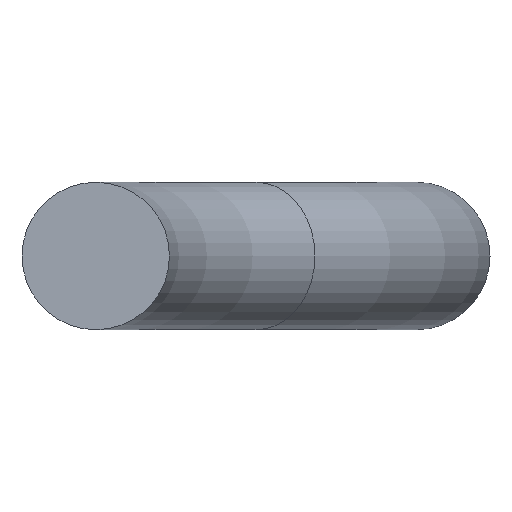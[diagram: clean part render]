
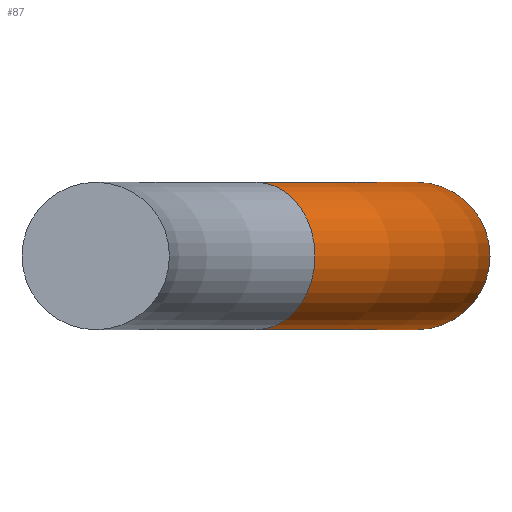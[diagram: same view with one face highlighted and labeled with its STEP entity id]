
A CAD part, front view. The second image highlights one B-rep face of the part: STEP entity #87.
In plain terms, the highlighted toroidal (fillet/blend) face has major radius 125 mm and minor radius 11.5 mm.
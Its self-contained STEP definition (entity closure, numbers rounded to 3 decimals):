
#17=TOROIDAL_SURFACE('',#110,125.,11.5);
#20=FACE_OUTER_BOUND('',#26,.T.);
#26=EDGE_LOOP('',(#67,#68,#69,#70,#71,#72));
#36=CIRCLE('',#108,11.5);
#37=CIRCLE('',#109,11.5);
#38=CIRCLE('',#111,113.5);
#39=CIRCLE('',#112,11.5);
#40=CIRCLE('',#113,11.5);
#45=VERTEX_POINT('',#159);
#46=VERTEX_POINT('',#161);
#47=VERTEX_POINT('',#165);
#48=VERTEX_POINT('',#167);
#53=EDGE_CURVE('',#45,#46,#36,.T.);
#54=EDGE_CURVE('',#46,#45,#37,.T.);
#55=EDGE_CURVE('',#46,#47,#38,.T.);
#56=EDGE_CURVE('',#47,#48,#39,.T.);
#57=EDGE_CURVE('',#48,#47,#40,.T.);
#67=ORIENTED_EDGE('',*,*,#53,.F.);
#68=ORIENTED_EDGE('',*,*,#54,.F.);
#69=ORIENTED_EDGE('',*,*,#55,.T.);
#70=ORIENTED_EDGE('',*,*,#56,.T.);
#71=ORIENTED_EDGE('',*,*,#57,.T.);
#72=ORIENTED_EDGE('',*,*,#55,.F.);
#87=ADVANCED_FACE('',(#20),#17,.T.);
#108=AXIS2_PLACEMENT_3D('',#162,#128,#129);
#109=AXIS2_PLACEMENT_3D('',#163,#130,#131);
#110=AXIS2_PLACEMENT_3D('',#164,#132,#133);
#111=AXIS2_PLACEMENT_3D('',#166,#134,#135);
#112=AXIS2_PLACEMENT_3D('',#168,#136,#137);
#113=AXIS2_PLACEMENT_3D('',#169,#138,#139);
#128=DIRECTION('center_axis',(0.,1.,0.));
#129=DIRECTION('ref_axis',(-1.,0.,0.));
#130=DIRECTION('center_axis',(0.,1.,0.));
#131=DIRECTION('ref_axis',(-1.,0.,0.));
#132=DIRECTION('center_axis',(0.,0.,1.));
#133=DIRECTION('ref_axis',(1.,0.,0.));
#134=DIRECTION('center_axis',(0.,0.,-1.));
#135=DIRECTION('ref_axis',(1.,0.,0.));
#136=DIRECTION('center_axis',(0.6,0.8,0.));
#137=DIRECTION('ref_axis',(-0.8,0.6,0.));
#138=DIRECTION('center_axis',(0.6,0.8,0.));
#139=DIRECTION('ref_axis',(-0.8,0.6,0.));
#159=CARTESIAN_POINT('',(-105.4,261.81,0.));
#161=CARTESIAN_POINT('',(-128.4,261.81,0.));
#162=CARTESIAN_POINT('Origin',(-116.9,261.81,0.));
#163=CARTESIAN_POINT('Origin',(-116.9,261.81,0.));
#164=CARTESIAN_POINT('Origin',(-241.9,261.81,0.));
#165=CARTESIAN_POINT('',(-151.1,193.71,0.));
#166=CARTESIAN_POINT('Origin',(-241.9,261.81,0.));
#167=CARTESIAN_POINT('',(-132.7,179.91,0.));
#168=CARTESIAN_POINT('Origin',(-141.9,186.81,0.));
#169=CARTESIAN_POINT('Origin',(-141.9,186.81,0.));
